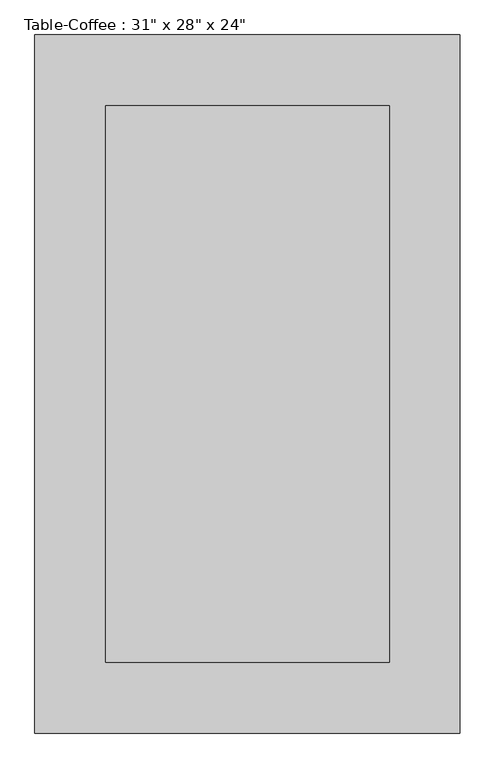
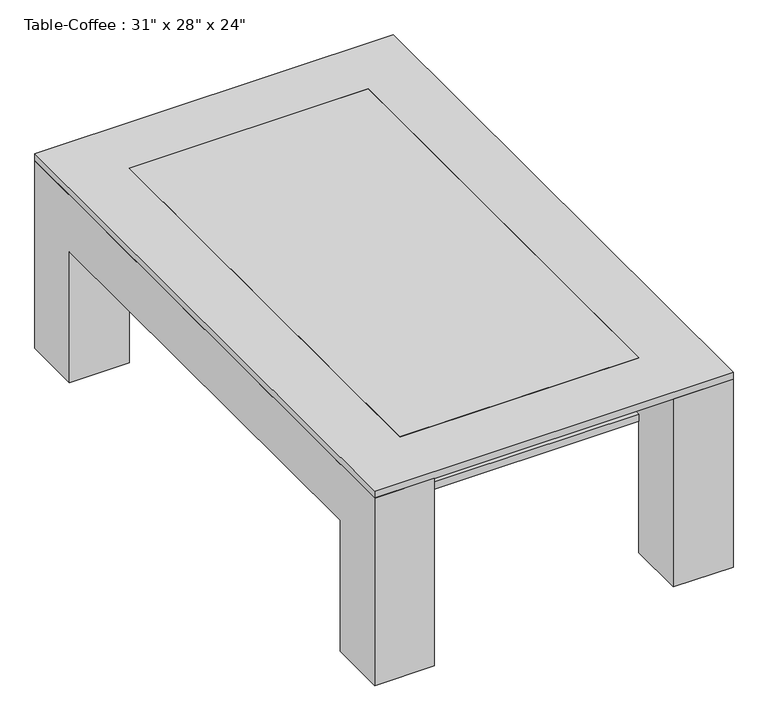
"""IFC4 building model written with IfcOpenShell, lengths in millimetres: furniture geometry."""

from ifc_helpers import new_model, si_unit, frame, origin, place, context, project, spatial, polyline, outline, extrude, source, transform, mapped, element, save


def furniture_da6993fe(model_context):
    return source(origin(), model_context, "Body", "SweptSolid", [
        extrude(outline(polyline([(221.4657667, 493.6110778), (221.4657667, -303.1889222), (-184.9342333, -303.1889222), (-184.9342333, 493.6110778), (221.4657667, 493.6110778)])), frame((0.0, 0.0, 235.7), z_axis=(0.0, 0.0, 1.0), x_axis=(1.0, 0.0, 0.0)), (0.0, 0.0, 1.0), 12.7),
        extrude(outline(polyline([(595.2110778, 0.0), (493.6110778, 0.0), (493.6110778, 235.7), (-303.1889222, 235.7), (-303.1889222, 0.0), (-404.7889222, 0.0), (-404.7889222, 337.3), (595.2110778, 337.3), (595.2110778, 0.0)])), frame((221.4657667, 0.0, 0.0), z_axis=(1.0, 0.0, 0.0), x_axis=(0.0, 1.0, 0.0)), (0.0, 0.0, 1.0), 101.6),
        extrude(outline(polyline([(595.2110778, 337.3), (595.2110778, 0.0), (493.6110778, 0.0), (493.6110778, 235.7), (-303.1889222, 235.7), (-303.1889222, 0.0), (-404.7889222, 0.0), (-404.7889222, 337.3), (595.2110778, 337.3)])), frame((-286.5342333, 0.0, 0.0), z_axis=(1.0, 0.0, 0.0), x_axis=(0.0, 1.0, 0.0)), (0.0, 0.0, 1.0), 101.6),
        extrude(outline(polyline([(221.4657667, 493.6110778), (221.4657667, -303.1889222), (-184.9342333, -303.1889222), (-184.9342333, 493.6110778), (221.4657667, 493.6110778)])), frame((0.0, 0.0, 337.3), z_axis=(0.0, 0.0, 1.0), x_axis=(1.0, 0.0, 0.0)), (0.0, 0.0, 1.0), 12.7),
        extrude(outline(polyline([(323.0657667, 595.2110778), (323.0657667, -404.7889222), (-286.5342333, -404.7889222), (-286.5342333, 595.2110778), (323.0657667, 595.2110778)]), holes=[polyline([(221.4657667, 493.6110778), (-184.9342333, 493.6110778), (-184.9342333, -303.1889222), (221.4657667, -303.1889222), (221.4657667, 493.6110778)])]), frame((0.0, 0.0, 337.3), z_axis=(0.0, 0.0, 1.0), x_axis=(1.0, 0.0, 0.0)), (0.0, 0.0, 1.0), 12.7),
    ])


if __name__ == "__main__":
    model = new_model("IFC4")
    model_context = context("Model", 3, world=origin())
    ifc_project = project(units=[si_unit("LENGTHUNIT", "METRE", prefix="MILLI")], contexts=[model_context])
    site = spatial("IfcSite", under=ifc_project)
    building = spatial("IfcBuilding", under=site)
    placement = place(None, origin())
    furniture_shape = furniture_da6993fe(model_context)
    element("IfcFurniture", 1, ObjectType="Table-Coffee : 31\" x 28\" x 24\"", at=placement, inside=building, context=model_context, shape_type="MappedRepresentation", body=[
        mapped(furniture_shape, transform((0.0, 0.0, 0.0), x_axis=(1.0, 0.0, 0.0), y_axis=(0.0, 1.0, 0.0), z_axis=(0.0, 0.0, 1.0))),
    ])
    save(model, "model.ifc")
